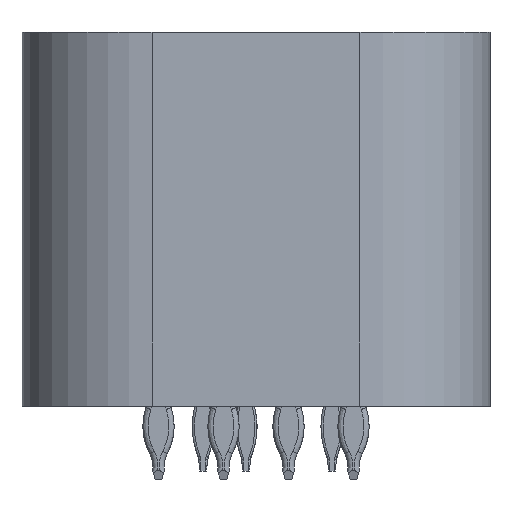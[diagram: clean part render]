
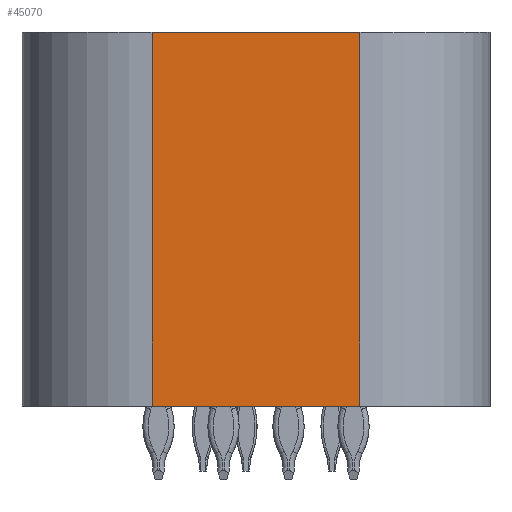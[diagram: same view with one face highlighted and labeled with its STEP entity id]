
A CAD part, left-side view. The second image highlights one B-rep face of the part: STEP entity #45070.
In plain terms, the highlighted planar face has unit normal (-1, 0, 0).
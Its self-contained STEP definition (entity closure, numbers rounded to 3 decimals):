
#23261 = CARTESIAN_POINT ( 'NONE',  ( -21.599, 5.807, -6.051 ) ) ;
#23268 = CARTESIAN_POINT ( 'NONE',  ( -21.599, -2.193, -6.051 ) ) ;
#23397 = CARTESIAN_POINT ( 'NONE',  ( -21.599, -2.193, 8.329 ) ) ;
#23399 = CARTESIAN_POINT ( 'NONE',  ( -21.599, 5.807, 8.329 ) ) ;
#37890 = VERTEX_POINT ( 'NONE', #23261 ) ;
#37897 = VERTEX_POINT ( 'NONE', #23268 ) ;
#38074 = VERTEX_POINT ( 'NONE', #23397 ) ;
#38078 = VERTEX_POINT ( 'NONE', #23399 ) ;
#45070 = ADVANCED_FACE ( 'NONE', ( #67081 ), #67066, .F. ) ;
#48751 = EDGE_LOOP ( 'NONE', ( #50862, #50863, #50864, #50865 ) ) ;
#50862 = ORIENTED_EDGE ( 'NONE', *, *, #53023, .T. ) ;
#50863 = ORIENTED_EDGE ( 'NONE', *, *, #53197, .T. ) ;
#50864 = ORIENTED_EDGE ( 'NONE', *, *, #53198, .F. ) ;
#50865 = ORIENTED_EDGE ( 'NONE', *, *, #53199, .T. ) ;
#53023 = EDGE_CURVE ( 'NONE', #37890, #37897, #77210, .T. ) ;
#53197 = EDGE_CURVE ( 'NONE', #37897, #38074, #77739, .T. ) ;
#53198 = EDGE_CURVE ( 'NONE', #38078, #38074, #77742, .T. ) ;
#53199 = EDGE_CURVE ( 'NONE', #38078, #37890, #77745, .T. ) ;
#65616 = AXIS2_PLACEMENT_3D ( 'NONE', #67091, #67092, #67093 ) ;
#67066 = PLANE ( 'NONE',  #65616 ) ;
#67081 = FACE_OUTER_BOUND ( 'NONE', #48751, .T. ) ;
#67091 = CARTESIAN_POINT ( 'NONE',  ( -21.599, 10.807, 8.329 ) ) ;
#67092 = DIRECTION ( 'NONE',  ( 1., 0., 0. ) ) ;
#67093 = DIRECTION ( 'NONE',  ( 0., 0., -1. ) ) ;
#75500 = VECTOR ( 'NONE', #77220, 1000. ) ;
#75684 = VECTOR ( 'NONE', #77741, 1000. ) ;
#75685 = VECTOR ( 'NONE', #77744, 1000. ) ;
#75686 = VECTOR ( 'NONE', #77747, 1000. ) ;
#77197 = CARTESIAN_POINT ( 'NONE',  ( -21.599, 10.807, -6.051 ) ) ;
#77210 = LINE ( 'NONE', #77197, #75500 ) ;
#77220 = DIRECTION ( 'NONE',  ( 0., -1., 0. ) ) ;
#77739 = LINE ( 'NONE', #77740, #75684 ) ;
#77740 = CARTESIAN_POINT ( 'NONE',  ( -21.599, -2.193, 8.329 ) ) ;
#77741 = DIRECTION ( 'NONE',  ( 0., 0., 1. ) ) ;
#77742 = LINE ( 'NONE', #77743, #75685 ) ;
#77743 = CARTESIAN_POINT ( 'NONE',  ( -21.599, 10.807, 8.329 ) ) ;
#77744 = DIRECTION ( 'NONE',  ( 0., -1., 0. ) ) ;
#77745 = LINE ( 'NONE', #77746, #75686 ) ;
#77746 = CARTESIAN_POINT ( 'NONE',  ( -21.599, 5.807, 8.329 ) ) ;
#77747 = DIRECTION ( 'NONE',  ( 0., 0., -1. ) ) ;
